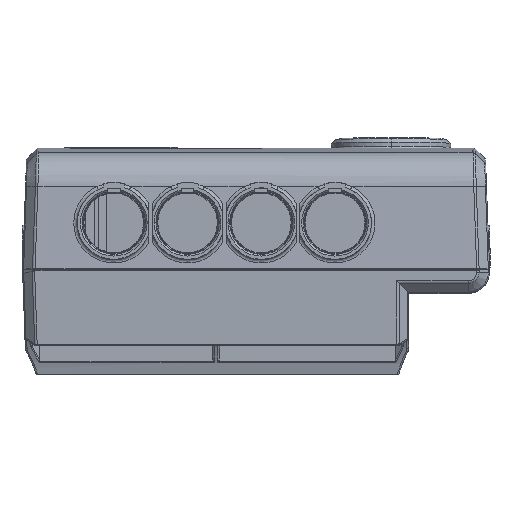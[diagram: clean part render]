
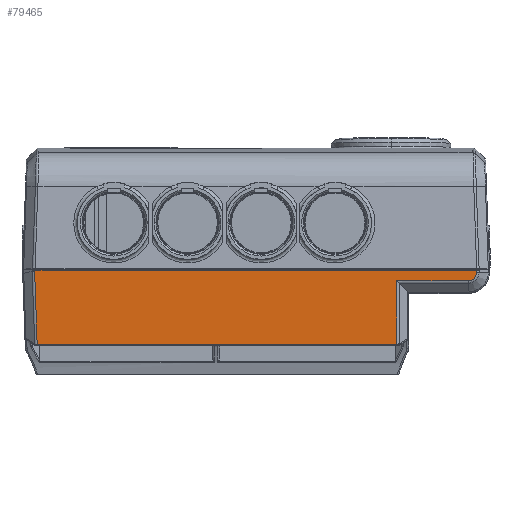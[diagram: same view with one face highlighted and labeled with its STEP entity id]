
A CAD part, top view. The second image highlights one B-rep face of the part: STEP entity #79465.
In plain terms, the highlighted planar face has unit normal (0, -0.035, 0.999).
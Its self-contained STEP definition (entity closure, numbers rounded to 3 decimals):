
#6945 = CARTESIAN_POINT ( 'NONE',  ( 129.372, -0.25, -0.009 ) ) ;
#6946 = DIRECTION ( 'NONE',  ( -1., 0., 0. ) ) ;
#6947 = VECTOR ( 'NONE', #6946, 1000. ) ;
#6948 = CARTESIAN_POINT ( 'NONE',  ( 0., -0.25, -0.009 ) ) ;
#6953 = LINE ( 'NONE', #6948, #6947 ) ;
#6954 = CARTESIAN_POINT ( 'NONE',  ( 3.512, -0.25, -0.009 ) ) ;
#7293 = CARTESIAN_POINT ( 'NONE',  ( 126.964, -3.498, -0.122 ) ) ;
#7294 = DIRECTION ( 'NONE',  ( 1., 0., 0. ) ) ;
#7295 = VECTOR ( 'NONE', #7294, 1000. ) ;
#7296 = CARTESIAN_POINT ( 'NONE',  ( 0., -3.498, -0.122 ) ) ;
#7297 = LINE ( 'NONE', #7296, #7295 ) ;
#7298 = CARTESIAN_POINT ( 'NONE',  ( 106.586, -3.498, -0.122 ) ) ;
#7299 = DIRECTION ( 'NONE',  ( 0., 0.999, 0.035 ) ) ;
#7300 = VECTOR ( 'NONE', #7299, 1000. ) ;
#7301 = CARTESIAN_POINT ( 'NONE',  ( 106.586, 0., 0. ) ) ;
#7302 = LINE ( 'NONE', #7301, #7300 ) ;
#7329 = DIRECTION ( 'NONE',  ( -0.102, -0.994, -0.035 ) ) ;
#7330 = VECTOR ( 'NONE', #7329, 1000. ) ;
#7331 = CARTESIAN_POINT ( 'NONE',  ( 3.501, -0.358, -0.013 ) ) ;
#7337 = LINE ( 'NONE', #7331, #7330 ) ;
#7339 = CARTESIAN_POINT ( 'NONE',  ( 129.339, -1.192, -0.042 ) ) ;
#7340 = CARTESIAN_POINT ( 'NONE',  ( 129.322, -1.807, -0.063 ) ) ;
#7341 = CARTESIAN_POINT ( 'NONE',  ( 129.054, -2.402, -0.084 ) ) ;
#7342 = CARTESIAN_POINT ( 'NONE',  ( 128.509, -2.932, -0.102 ) ) ;
#7343 = CARTESIAN_POINT ( 'NONE',  ( 128.388, -3.028, -0.106 ) ) ;
#7344 = CARTESIAN_POINT ( 'NONE',  ( 128.132, -3.194, -0.112 ) ) ;
#7345 = CARTESIAN_POINT ( 'NONE',  ( 127.998, -3.264, -0.114 ) ) ;
#7346 = CARTESIAN_POINT ( 'NONE',  ( 127.715, -3.379, -0.118 ) ) ;
#7347 = CARTESIAN_POINT ( 'NONE',  ( 127.567, -3.424, -0.12 ) ) ;
#7348 = CARTESIAN_POINT ( 'NONE',  ( 127.269, -3.483, -0.122 ) ) ;
#7349 = CARTESIAN_POINT ( 'NONE',  ( 127.118, -3.498, -0.122 ) ) ;
#7350 = CARTESIAN_POINT ( 'NONE',  ( 126.964, -3.498, -0.122 ) ) ;
#7351 = DIRECTION ( 'NONE',  ( 0.035, 0.999, 0.035 ) ) ;
#7352 = VECTOR ( 'NONE', #7351, 1000. ) ;
#7353 = CARTESIAN_POINT ( 'NONE',  ( 129.223, -4.507, -0.157 ) ) ;
#7354 = CARTESIAN_POINT ( 'NONE',  ( 129.339, -1.192, -0.042 ) ) ;
#7355 = B_SPLINE_CURVE_WITH_KNOTS ( 'NONE', 3,
 ( #7350, #7349, #7348, #7347, #7346, #7345, #7344, #7343, #7342, #7341, #7340, #7339 ),
 .UNSPECIFIED., .F., .F.,
 ( 4, 2, 2, 2, 2, 4 ),
 ( 0., 0., 0.001, 0.001, 0.002, 0.004 ),
 .UNSPECIFIED. ) ;
#7356 = LINE ( 'NONE', #7353, #7352 ) ;
#7362 = CARTESIAN_POINT ( 'NONE',  ( 106.586, -21.569, -0.753 ) ) ;
#7363 = DIRECTION ( 'NONE',  ( 1., 0., 0. ) ) ;
#7364 = VECTOR ( 'NONE', #7363, 1000. ) ;
#7365 = CARTESIAN_POINT ( 'NONE',  ( 0., -21.569, -0.753 ) ) ;
#7366 = LINE ( 'NONE', #7365, #7364 ) ;
#7367 = CARTESIAN_POINT ( 'NONE',  ( 4.169, -21.569, -0.753 ) ) ;
#7368 = CARTESIAN_POINT ( 'NONE',  ( 3.447, -0.881, -0.031 ) ) ;
#7369 = DIRECTION ( 'NONE',  ( 0.035, -0.999, -0.035 ) ) ;
#7370 = VECTOR ( 'NONE', #7369, 1000. ) ;
#7371 = CARTESIAN_POINT ( 'NONE',  ( 3.412, 0.119, 0.004 ) ) ;
#7372 = LINE ( 'NONE', #7371, #7370 ) ;
#7373 = DIRECTION ( 'NONE',  ( 0., -0.999, -0.035 ) ) ;
#7374 = DIRECTION ( 'NONE',  ( 0., -0.035, 0.999 ) ) ;
#7375 = CARTESIAN_POINT ( 'NONE',  ( 0., 0., 0. ) ) ;
#7376 = AXIS2_PLACEMENT_3D ( 'NONE', #7375, #7374, #7373 ) ;
#7377 = PLANE ( 'NONE',  #7376 ) ;
#7378 = FACE_OUTER_BOUND ( 'NONE', #79466, .T. ) ;
#79236 = VERTEX_POINT ( 'NONE', #6954 ) ;
#79238 = EDGE_CURVE ( 'NONE', #79239, #79236, #6953, .T. ) ;
#79239 = VERTEX_POINT ( 'NONE', #6945 ) ;
#79445 = ORIENTED_EDGE ( 'NONE', *, *, #79446, .T. ) ;
#79446 = EDGE_CURVE ( 'NONE', #79473, #79447, #7302, .T. ) ;
#79447 = VERTEX_POINT ( 'NONE', #7298 ) ;
#79448 = ORIENTED_EDGE ( 'NONE', *, *, #79449, .T. ) ;
#79449 = EDGE_CURVE ( 'NONE', #79447, #79450, #7297, .T. ) ;
#79450 = VERTEX_POINT ( 'NONE', #7293 ) ;
#79451 = ORIENTED_EDGE ( 'NONE', *, *, #79452, .T. ) ;
#79452 = EDGE_CURVE ( 'NONE', #79450, #79453, #7355, .T. ) ;
#79453 = VERTEX_POINT ( 'NONE', #7354 ) ;
#79454 = ORIENTED_EDGE ( 'NONE', *, *, #79455, .T. ) ;
#79455 = EDGE_CURVE ( 'NONE', #79453, #79239, #7356, .T. ) ;
#79457 = ORIENTED_EDGE ( 'NONE', *, *, #79238, .T. ) ;
#79458 = ORIENTED_EDGE ( 'NONE', *, *, #79459, .T. ) ;
#79459 = EDGE_CURVE ( 'NONE', #79236, #79469, #7337, .T. ) ;
#79465 = ADVANCED_FACE ( 'NONE', ( #7378 ), #7377, .T. ) ;
#79466 = EDGE_LOOP ( 'NONE', ( #79467, #79471, #79445, #79448, #79451, #79454, #79457, #79458 ) ) ;
#79467 = ORIENTED_EDGE ( 'NONE', *, *, #79468, .T. ) ;
#79468 = EDGE_CURVE ( 'NONE', #79469, #79470, #7372, .T. ) ;
#79469 = VERTEX_POINT ( 'NONE', #7368 ) ;
#79470 = VERTEX_POINT ( 'NONE', #7367 ) ;
#79471 = ORIENTED_EDGE ( 'NONE', *, *, #79472, .T. ) ;
#79472 = EDGE_CURVE ( 'NONE', #79470, #79473, #7366, .T. ) ;
#79473 = VERTEX_POINT ( 'NONE', #7362 ) ;
